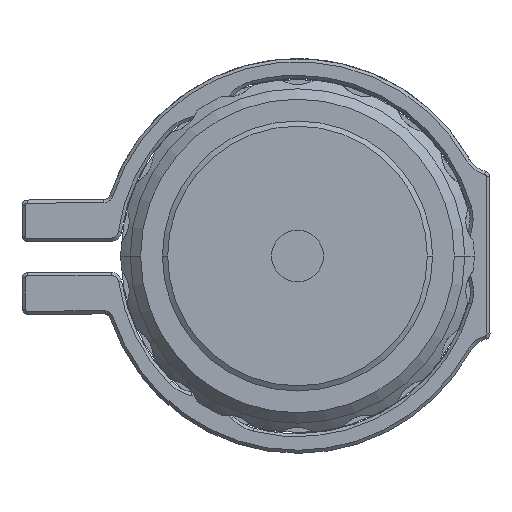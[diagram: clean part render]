
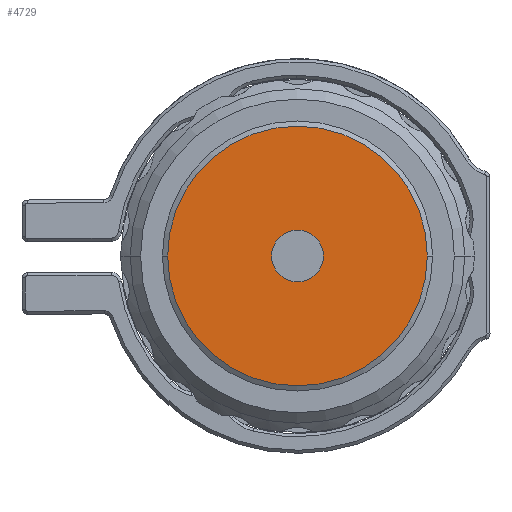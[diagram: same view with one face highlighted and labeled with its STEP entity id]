
A CAD part, left-side view. The second image highlights one B-rep face of the part: STEP entity #4729.
In plain terms, the highlighted planar face has unit normal (-1, 0, 0).
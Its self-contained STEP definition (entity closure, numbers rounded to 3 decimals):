
#171 = VERTEX_POINT ( 'NONE', #4003 ) ;
#246 = AXIS2_PLACEMENT_3D ( 'NONE', #8404, #2431, #3135 ) ;
#375 = ORIENTED_EDGE ( 'NONE', *, *, #7195, .F. ) ;
#482 = CARTESIAN_POINT ( 'NONE',  ( 7.337, 46.021, 0. ) ) ;
#1240 = AXIS2_PLACEMENT_3D ( 'NONE', #482, #3505, #8690 ) ;
#1270 = EDGE_LOOP ( 'NONE', ( #375, #6800 ) ) ;
#1538 = CARTESIAN_POINT ( 'NONE',  ( 7.337, 57.871, 0. ) ) ;
#1651 = EDGE_CURVE ( 'NONE', #6940, #171, #8996, .T. ) ;
#2171 = DIRECTION ( 'NONE',  ( 0., 0., 1. ) ) ;
#2254 = CARTESIAN_POINT ( 'NONE',  ( 7.337, 46.021, 0. ) ) ;
#2431 = DIRECTION ( 'NONE',  ( 1., 0., 0. ) ) ;
#2524 = AXIS2_PLACEMENT_3D ( 'NONE', #2877, #5985, #8901 ) ;
#2877 = CARTESIAN_POINT ( 'NONE',  ( 7.337, 46.021, 0. ) ) ;
#2969 = EDGE_CURVE ( 'NONE', #3337, #7310, #7331, .T. ) ;
#3135 = DIRECTION ( 'NONE',  ( 0., 1., 0. ) ) ;
#3282 = ORIENTED_EDGE ( 'NONE', *, *, #1651, .F. ) ;
#3337 = VERTEX_POINT ( 'NONE', #8921 ) ;
#3505 = DIRECTION ( 'NONE',  ( -1., 0., 0. ) ) ;
#3601 = CIRCLE ( 'NONE', #1240, 2.5 ) ;
#3982 = CARTESIAN_POINT ( 'NONE',  ( 7.337, 33.521, 0. ) ) ;
#4003 = CARTESIAN_POINT ( 'NONE',  ( 7.337, 46.021, -2.5 ) ) ;
#4163 = CIRCLE ( 'NONE', #9683, 12.5 ) ;
#4729 = ADVANCED_FACE ( 'NONE', ( #6766, #9685 ), #5933, .T. ) ;
#5871 = EDGE_CURVE ( 'NONE', #171, #6940, #3601, .T. ) ;
#5933 = PLANE ( 'NONE',  #9699 ) ;
#5985 = DIRECTION ( 'NONE',  ( -1., 0., 0. ) ) ;
#6554 = DIRECTION ( 'NONE',  ( 1., 0., 0. ) ) ;
#6766 = FACE_BOUND ( 'NONE', #7932, .T. ) ;
#6800 = ORIENTED_EDGE ( 'NONE', *, *, #2969, .F. ) ;
#6940 = VERTEX_POINT ( 'NONE', #8298 ) ;
#7195 = EDGE_CURVE ( 'NONE', #7310, #3337, #4163, .T. ) ;
#7310 = VERTEX_POINT ( 'NONE', #3982 ) ;
#7331 = CIRCLE ( 'NONE', #246, 12.5 ) ;
#7932 = EDGE_LOOP ( 'NONE', ( #8002, #3282 ) ) ;
#8002 = ORIENTED_EDGE ( 'NONE', *, *, #5871, .F. ) ;
#8298 = CARTESIAN_POINT ( 'NONE',  ( 7.337, 46.021, 2.5 ) ) ;
#8404 = CARTESIAN_POINT ( 'NONE',  ( 7.337, 46.021, 0. ) ) ;
#8690 = DIRECTION ( 'NONE',  ( 0., 0., 1. ) ) ;
#8901 = DIRECTION ( 'NONE',  ( 0., 0., 1. ) ) ;
#8921 = CARTESIAN_POINT ( 'NONE',  ( 7.337, 58.521, 0. ) ) ;
#8944 = DIRECTION ( 'NONE',  ( -1., 0., 0. ) ) ;
#8996 = CIRCLE ( 'NONE', #2524, 2.5 ) ;
#9558 = DIRECTION ( 'NONE',  ( 0., 1., 0. ) ) ;
#9683 = AXIS2_PLACEMENT_3D ( 'NONE', #2254, #6554, #9558 ) ;
#9685 = FACE_OUTER_BOUND ( 'NONE', #1270, .T. ) ;
#9699 = AXIS2_PLACEMENT_3D ( 'NONE', #1538, #8944, #2171 ) ;
